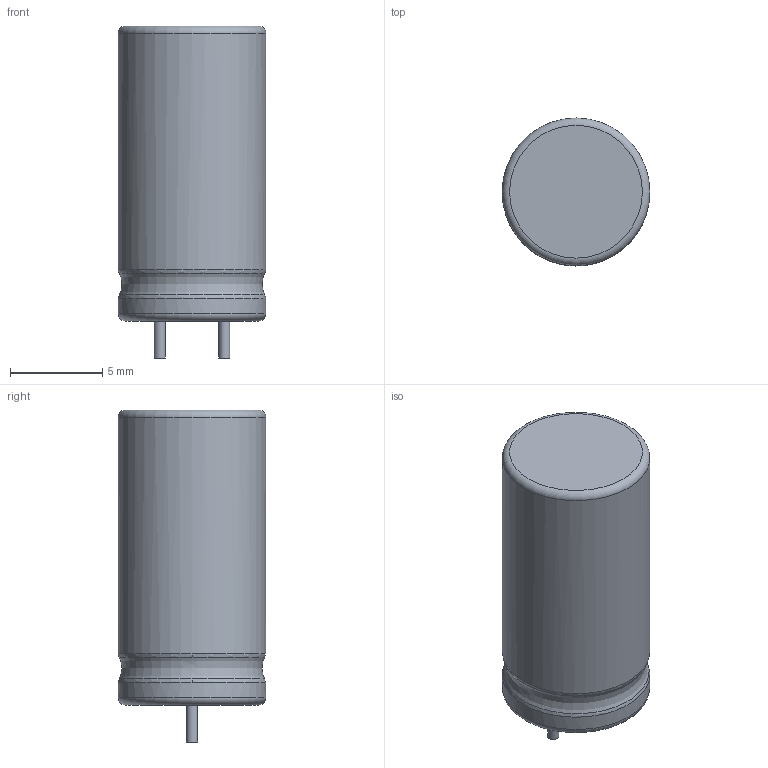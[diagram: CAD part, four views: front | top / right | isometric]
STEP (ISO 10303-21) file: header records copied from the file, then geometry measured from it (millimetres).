
FILE_DESCRIPTION(('FreeCAD Model'),'2;1');
FILE_NAME('Open CASCADE Shape Model','2025-01-30T21:36:38',( 'Krisjanis Rijnieks'),(''),'Open CASCADE STEP processor 7.7', 'FreeCAD','Unknown');
FILE_SCHEMA(('AUTOMOTIVE_DESIGN { 1 0 10303 214 1 1 1 1 }'));
Length unit declared in the file: millimetre
Products named in the file (5): TPLC-3R8; Body; Wires; Body002; Wire
Assembly tree (4 placements, depth 3):
  TPLC-3R8
    Body
    Wires
      Body002
      Wire
Bounding box: 8 x 8 x 18 mm (x, y, z)
Volume: 799.1 mm3; surface area: 503.1 mm2
Topology: 3 solids, 3 shells, 17 faces, 27 edges, 16 vertices
Faces by surface type: plane 6, cylinder 4, bspline 4, torus 3
Full cylindrical faces by diameter (mm): 0.6 x2, 8 x2
Entity records: 679 total; most frequent: CARTESIAN_POINT 301, DIRECTION 62, ORIENTED_EDGE 54, AXIS2_PLACEMENT_3D 29, EDGE_CURVE 27, ADVANCED_FACE 17, FACE_BOUND 17, EDGE_LOOP 17
